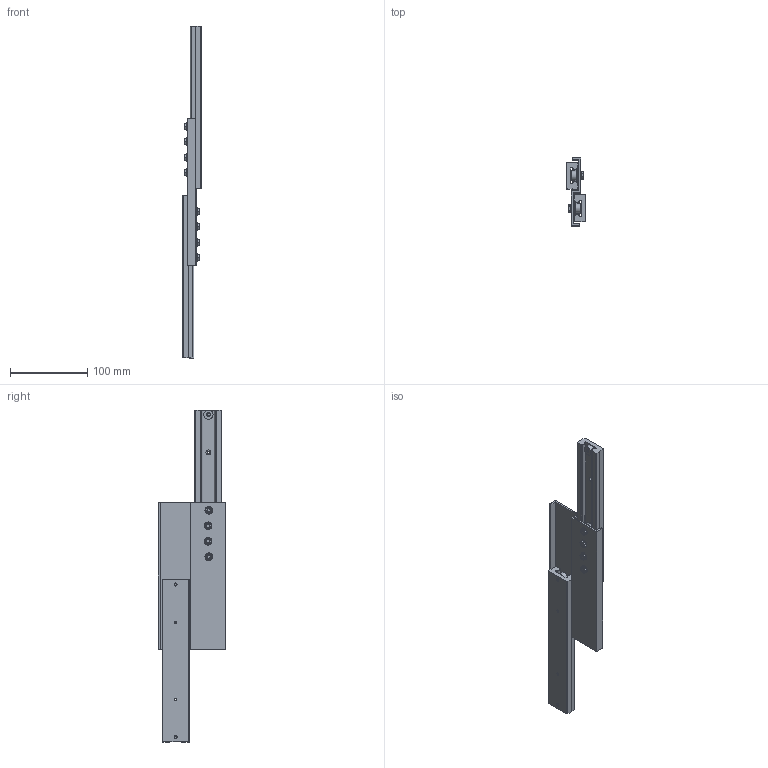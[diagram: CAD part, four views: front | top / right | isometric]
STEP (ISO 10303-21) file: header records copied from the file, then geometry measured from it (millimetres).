
FILE_DESCRIPTION (( 'STEP AP214' ), '1' );
FILE_NAME ('LSIM35DV.STEP', '2021-06-13T23:41:26', ( '' ), ( '' ), 'SwSTEP 2.0', 'SolidWorks 2019', '' );
FILE_SCHEMA (( 'AUTOMOTIVE_DESIGN' ));
Length unit declared in the file: millimetre
Products named in the file (4): LSIM35ストッパー; LSIM35DV; LSIM35DVリテーナ; LSIM35DVレール
Assembly tree (7 placements, depth 2):
  LSIM35DV
    LSIM35DVレール  x2
    LSIM35DVリテーナ
    LSIM35ストッパー  x4
Bounding box: 24 x 87.8 x 430 mm (x, y, z)
Volume: 212417.9 mm3; surface area: 106128.5 mm2
Topology: 7 solids, 7 shells, 424 faces, 930 edges, 588 vertices
Faces by surface type: plane 204, cylinder 108, cone 104, torus 8
Full cylindrical faces by diameter (mm): 3.3 x4, 3.4 x4, 4 x4, 5 x12, 6.5 x4, 8 x4, 8.6 x16, 10 x8, 12 x4, 16 x16
Entity records: 8893 total; most frequent: CARTESIAN_POINT 2086, DIRECTION 1361, ORIENTED_EDGE 1238, EDGE_CURVE 619, AXIS2_PLACEMENT_3D 593, EDGE_LOOP 467, VERTEX_POINT 422, FACE_OUTER_BOUND 397
